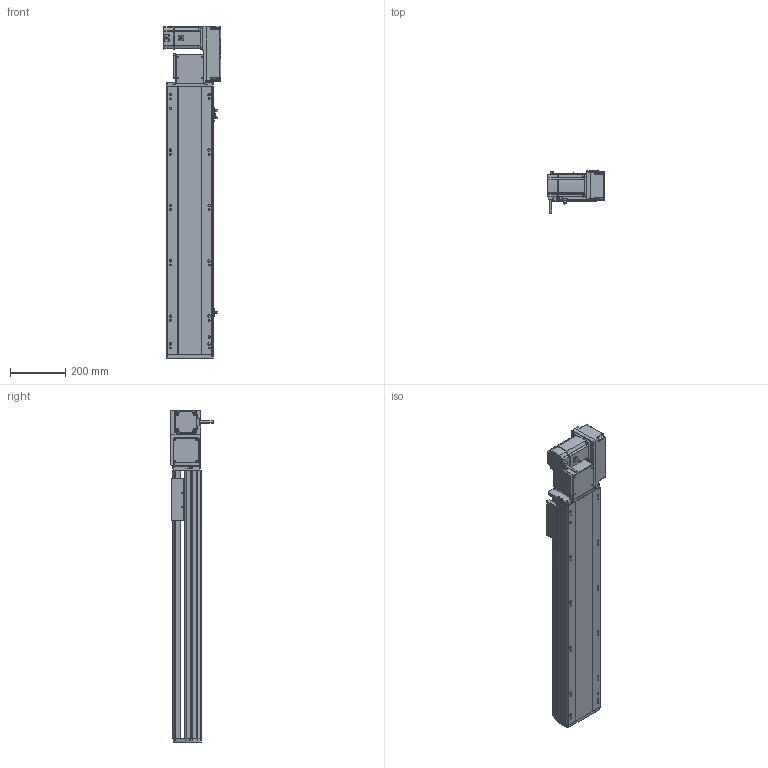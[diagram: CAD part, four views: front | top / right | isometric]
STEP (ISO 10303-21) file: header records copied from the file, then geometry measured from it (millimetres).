
FILE_DESCRIPTION (( 'STEP AP214' ), '1' );
FILE_NAME ('RTB17S-XX-700-R-M75-C4.STEP', '2025-12-12T01:31:57', ( '' ), ( '' ), 'SwSTEP 2.0', 'SolidWorks 2018', '' );
FILE_SCHEMA (( 'AUTOMOTIVE_DESIGN' ));
Length unit declared in the file: millimetre
Products named in the file (15): RTB17-R-011菁釱^RTB17S-XX-XX-R-M75-C4; RTB22S-GY-017P^RTB17S-R-々湍釱蚾饜-750W_RTB17S-XX-XX-R-M75-C4; RTB17S-賑釱^RTB17S-XX-XX-R-M75-C4; RTB17S-L-001-耜醱啣^RTB17S-XX-XX-R-M75-C4; RTB22S-GY-005P^RTB17S-R-々湍釱蚾饜-750W_RTB17S-XX-XX-R-M75-C4; RTB17S-R-々湍釱蚾饜-750W^RTB17S-XX-XX-R-M75-C4; 750W萇儂^RTB17S-XX-XX-R-M75-C4; RTB17S-XX-700-R-M75-C4; RTB17S-L-007奻裔^RTB17S-XX-XX-R-M75-C4; RTB17S-L-014-T20-P75--々湍釱^RTB17S-R-々湍釱蚾饜-750W_RTB17S-XX-XX-R-M75-C4; EE672^RTB17S-XX-XX-R-M75-C4; RTH13-BL-012覜茼え俋离^RTB17S-賑釱_RTB17S-XX-XX-R-M75-C4; RTB22S-GY-008-M75--萇儂啣^RTB17S-R-々湍釱蚾饜-750W_RTB17S-XX-XX-R-M75-C4; RTB22S-GY-018P^RTB17S-R-々湍釱蚾饜-750W_RTB17S-XX-XX-R-M75-C4; RTB17S-L-004-賑釱^RTB17S-賑釱_RTB17S-XX-XX-R-M75-C4
Assembly tree (17 placements, depth 3):
  RTB17S-XX-700-R-M75-C4
    RTB17-R-011菁釱^RTB17S-XX-XX-R-M75-C4
    EE672^RTB17S-XX-XX-R-M75-C4  x3
    RTB17S-L-001-耜醱啣^RTB17S-XX-XX-R-M75-C4
    RTB17S-賑釱^RTB17S-XX-XX-R-M75-C4
      RTB17S-L-004-賑釱^RTB17S-賑釱_RTB17S-XX-XX-R-M75-C4
      RTH13-BL-012覜茼え俋离^RTB17S-賑釱_RTB17S-XX-XX-R-M75-C4
    RTB17S-L-007奻裔^RTB17S-XX-XX-R-M75-C4
    750W萇儂^RTB17S-XX-XX-R-M75-C4
    RTB17S-R-々湍釱蚾饜-750W^RTB17S-XX-XX-R-M75-C4
      RTB17S-L-014-T20-P75--々湍釱^RTB17S-R-々湍釱蚾饜-750W_RTB17S-XX-XX-R-M75-C4
      RTB22S-GY-005P^RTB17S-R-々湍釱蚾饜-750W_RTB17S-XX-XX-R-M75-C4
      RTB22S-GY-017P^RTB17S-R-々湍釱蚾饜-750W_RTB17S-XX-XX-R-M75-C4  x2
      RTB22S-GY-008-M75--萇儂啣^RTB17S-R-々湍釱蚾饜-750W_RTB17S-XX-XX-R-M75-C4
      RTB22S-GY-018P^RTB17S-R-々湍釱蚾饜-750W_RTB17S-XX-XX-R-M75-C4
Bounding box: 207.4 x 152.7 x 1199 mm (x, y, z)
Volume: 10323170.3 mm3; surface area: 1703319.6 mm2
Topology: 17 solids, 17 shells, 2073 faces, 5728 edges, 3698 vertices
Faces by surface type: plane 968, cylinder 689, bspline 294, cone 110, sphere 8, torus 4
Entity records: 57334 total; most frequent: CARTESIAN_POINT 16792, ORIENTED_EDGE 8300, DIRECTION 7772, EDGE_CURVE 4150, AXIS2_PLACEMENT_3D 2718, VERTEX_POINT 2702, LINE 2336, VECTOR 2336
